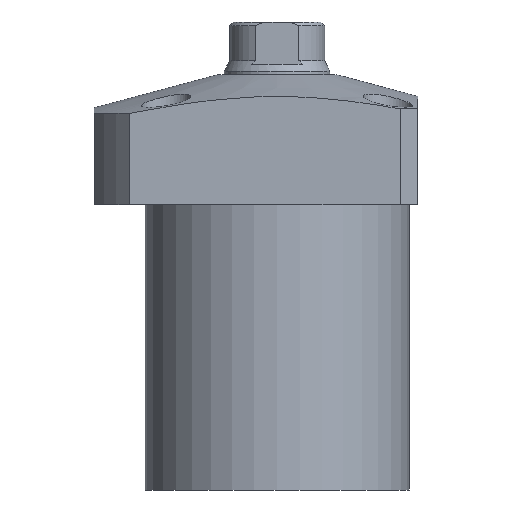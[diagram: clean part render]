
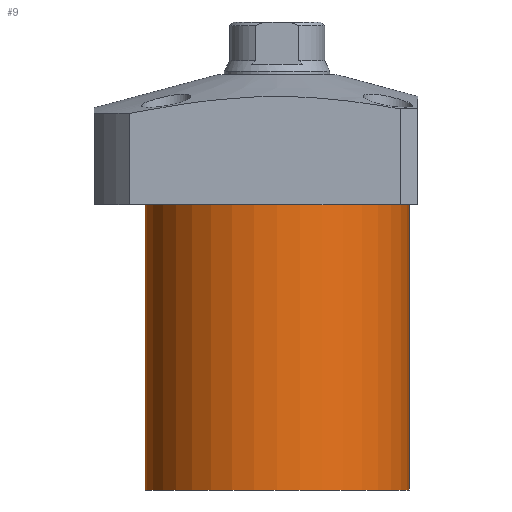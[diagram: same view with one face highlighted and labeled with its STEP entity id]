
A CAD part, front view. The second image highlights one B-rep face of the part: STEP entity #9.
In plain terms, the highlighted cylindrical face has radius 37.5 mm (diameter 75 mm), a partial arc.
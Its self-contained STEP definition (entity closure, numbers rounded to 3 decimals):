
#9 = ADVANCED_FACE ( 'NONE', ( #53 ), #651, .T. ) ;
#53 = FACE_OUTER_BOUND ( 'NONE', #1889, .T. ) ;
#93 = VERTEX_POINT ( 'NONE', #231 ) ;
#134 = LINE ( 'NONE', #2029, #1685 ) ;
#231 = CARTESIAN_POINT ( 'NONE',  ( 37.5, 0., -18.5 ) ) ;
#274 = CARTESIAN_POINT ( 'NONE',  ( -37.5, 0., -99.5 ) ) ;
#360 = VERTEX_POINT ( 'NONE', #890 ) ;
#423 = CARTESIAN_POINT ( 'NONE',  ( 0., 0., -18.5 ) ) ;
#651 = CYLINDRICAL_SURFACE ( 'NONE', #1447, 37.5 ) ;
#890 = CARTESIAN_POINT ( 'NONE',  ( -37.5, 0., -99.5 ) ) ;
#1023 = CARTESIAN_POINT ( 'NONE',  ( 0., 0., -99.5 ) ) ;
#1058 = EDGE_CURVE ( 'NONE', #2457, #360, #1677, .T. ) ;
#1071 = LINE ( 'NONE', #274, #2261 ) ;
#1091 = EDGE_CURVE ( 'NONE', #93, #2186, #1548, .T. ) ;
#1130 = CARTESIAN_POINT ( 'NONE',  ( 0., 0., -99.5 ) ) ;
#1142 = ORIENTED_EDGE ( 'NONE', *, *, #2361, .T. ) ;
#1197 = DIRECTION ( 'NONE',  ( -1., 0., 0. ) ) ;
#1318 = DIRECTION ( 'NONE',  ( 0., 0., 1. ) ) ;
#1348 = ORIENTED_EDGE ( 'NONE', *, *, #1091, .T. ) ;
#1405 = DIRECTION ( 'NONE',  ( 0., 0., -1. ) ) ;
#1415 = ORIENTED_EDGE ( 'NONE', *, *, #1058, .F. ) ;
#1447 = AXIS2_PLACEMENT_3D ( 'NONE', #1130, #1318, #2537 ) ;
#1548 = CIRCLE ( 'NONE', #1625, 37.5 ) ;
#1594 = DIRECTION ( 'NONE',  ( 1., 0., 0. ) ) ;
#1625 = AXIS2_PLACEMENT_3D ( 'NONE', #423, #1799, #1594 ) ;
#1668 = ORIENTED_EDGE ( 'NONE', *, *, #1788, .F. ) ;
#1677 = CIRCLE ( 'NONE', #2471, 37.5 ) ;
#1685 = VECTOR ( 'NONE', #2429, 1000. ) ;
#1788 = EDGE_CURVE ( 'NONE', #360, #2186, #1071, .T. ) ;
#1799 = DIRECTION ( 'NONE',  ( 0., 0., -1. ) ) ;
#1889 = EDGE_LOOP ( 'NONE', ( #1668, #1415, #1142, #1348 ) ) ;
#2029 = CARTESIAN_POINT ( 'NONE',  ( 37.5, 0., -99.5 ) ) ;
#2181 = CARTESIAN_POINT ( 'NONE',  ( -37.5, 0., -18.5 ) ) ;
#2186 = VERTEX_POINT ( 'NONE', #2181 ) ;
#2261 = VECTOR ( 'NONE', #2462, 1000. ) ;
#2361 = EDGE_CURVE ( 'NONE', #2457, #93, #134, .T. ) ;
#2429 = DIRECTION ( 'NONE',  ( 0., 0., 1. ) ) ;
#2457 = VERTEX_POINT ( 'NONE', #2478 ) ;
#2462 = DIRECTION ( 'NONE',  ( 0., 0., 1. ) ) ;
#2471 = AXIS2_PLACEMENT_3D ( 'NONE', #1023, #1405, #1197 ) ;
#2478 = CARTESIAN_POINT ( 'NONE',  ( 37.5, 0., -99.5 ) ) ;
#2537 = DIRECTION ( 'NONE',  ( 1., 0., 0. ) ) ;
